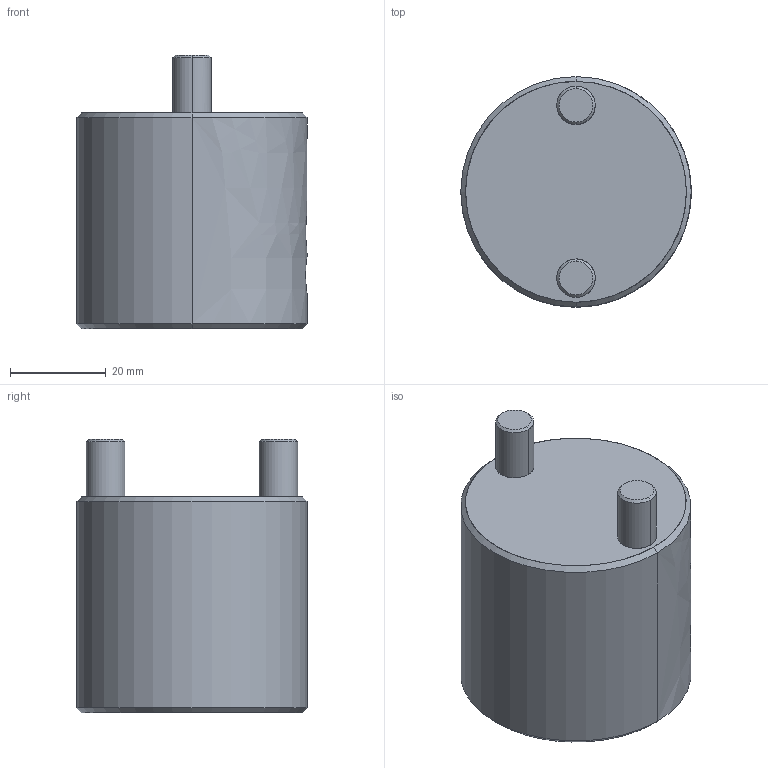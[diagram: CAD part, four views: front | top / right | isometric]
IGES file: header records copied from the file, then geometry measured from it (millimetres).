
Start section: START RECORD GO HERE.
Global section: file name: CS1225.igs; native system: DASSAULT SYSTEMES CATIA V5 R20 - www.3ds.com; preprocessor: CATIA Version 5 Release 20 ; author: r.borello; organization: CFTORINO; date: 20190624.105305; units: millimetre
Bounding box: 48 x 48 x 57 mm (x, y, z)
Surface area: 13989.3 mm2 (no closed solid volume)
Topology: 0 solids, 0 shells, 23 faces, 94 edges, 94 vertices
Faces by surface type: revolution 18, plane 5
